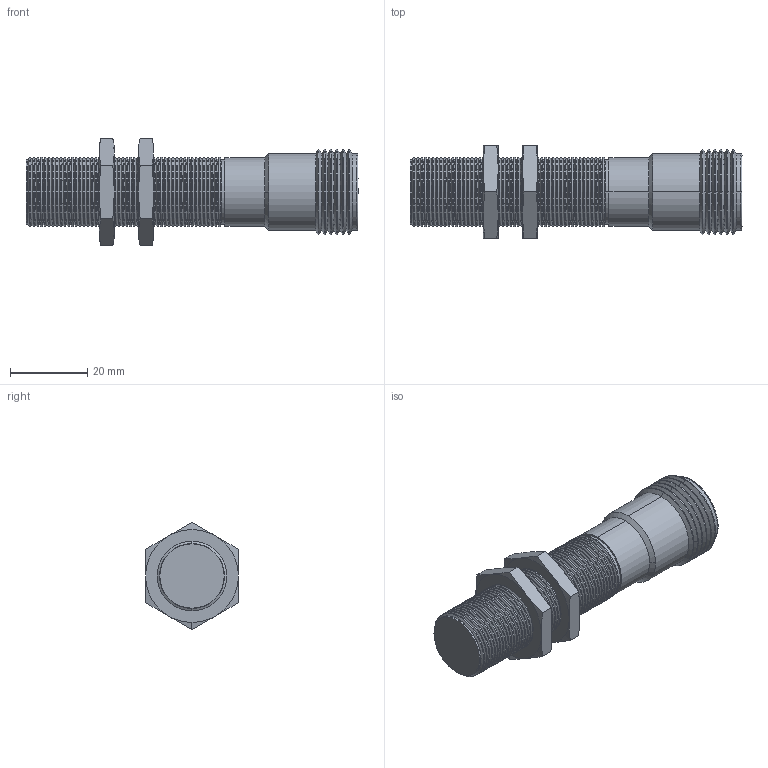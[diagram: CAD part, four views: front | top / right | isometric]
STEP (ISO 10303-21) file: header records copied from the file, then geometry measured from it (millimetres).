
FILE_DESCRIPTION (( 'STEP AP203' ), '1' );
FILE_NAME ('90-XXXX-015.STEP', '2015-10-28T13:13:38', ( 'Sam' ), ( 'Spade' ), 'SwSTEP 2.0', 'SolidWorks 2002296', '' );
FILE_SCHEMA (( 'CONFIG_CONTROL_DESIGN' ));
Length unit declared in the file: inch
Products named in the file (10): 90-XXXX-015; Imported145; Imported144; Imported143; Imported142; Imported148; Imported147; Imported146; Imported150; Imported149
Assembly tree (9 placements, depth 2):
  90-XXXX-015
    Imported142
    Imported146
    Imported144
    Imported145
    Imported150
    Imported149
    Imported143
    Imported148
    Imported147
Bounding box: 85.8 x 23.98 x 27.69 mm (x, y, z)
Volume: 23094.3 mm3; surface area: 13366 mm2
Topology: 9 solids, 9 shells, 490 faces, 1003 edges, 533 vertices
Faces by surface type: cone 298, cylinder 146, plane 38, bspline 8
Entity records: 13785 total; most frequent: DIRECTION 2439, CARTESIAN_POINT 2332, ORIENTED_EDGE 1994, AXIS2_PLACEMENT_3D 1000, EDGE_CURVE 997, VERTEX_POINT 533, CIRCLE 506, EDGE_LOOP 502
